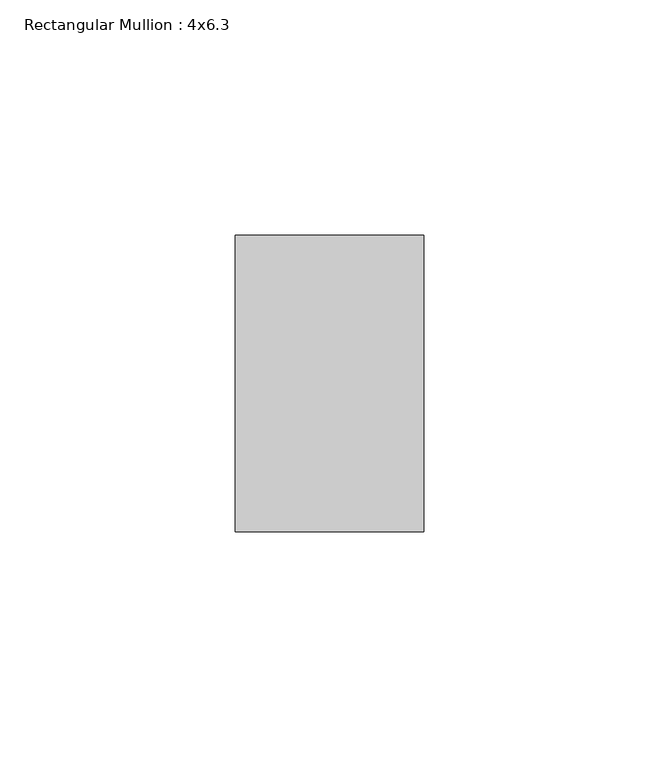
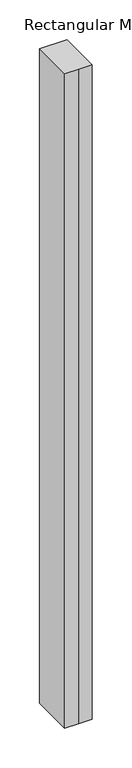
"""IFC4 building model written with IfcOpenShell, lengths in millimetres: member geometry, Rectangular Mullion : 4x6.3."""

from ifc_helpers import new_model, si_unit, frame, origin, place, context, project, spatial, polyline, outline, extrude, source, transform, mapped, element, save


def rectangular_mullion_4x6_3_d8ce87b2(model_context):
    return source(origin(), model_context, "Body", "SweptSolid", [
        extrude(outline(polyline([(-20.0, 20.0), (-20.0, 83.0), (20.0, 83.0), (20.0, 20.0), (0.0, 20.0), (-20.0, 20.0)])), frame((0.0, 0.0, -1004.4117893), z_axis=(0.0, 0.0, 1.0), x_axis=(1.0, 0.0, 0.0)), (0.0, 0.0, 1.0), 1004.4117893),
    ])


if __name__ == "__main__":
    model = new_model("IFC4")
    model_context = context("Model", 3, world=origin())
    ifc_project = project(units=[si_unit("LENGTHUNIT", "METRE", prefix="MILLI")], contexts=[model_context])
    site = spatial("IfcSite", under=ifc_project)
    building = spatial("IfcBuilding", under=site)
    placement = place(None, origin())
    rectangular_mullion_4x6_3_shape = rectangular_mullion_4x6_3_d8ce87b2(model_context)
    element("IfcMember", 1, ObjectType="Rectangular Mullion : 4x6.3", at=placement, inside=building, context=model_context, shape_type="MappedRepresentation", body=[
        mapped(rectangular_mullion_4x6_3_shape, transform((0.0, 0.0, 0.0), x_axis=(1.0, 0.0, 0.0), y_axis=(0.0, 1.0, 0.0), z_axis=(0.0, 0.0, 1.0))),
    ])
    save(model, "model.ifc")
